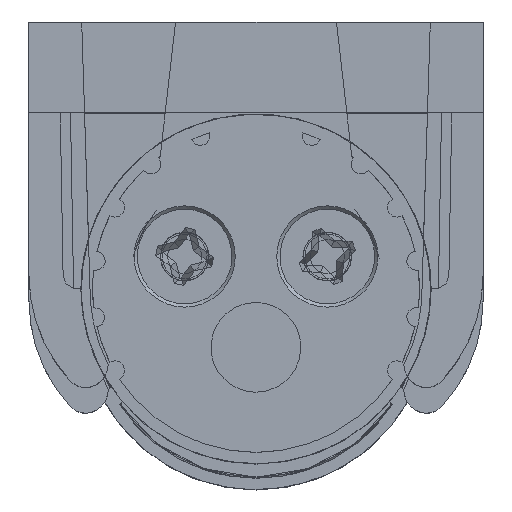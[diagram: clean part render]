
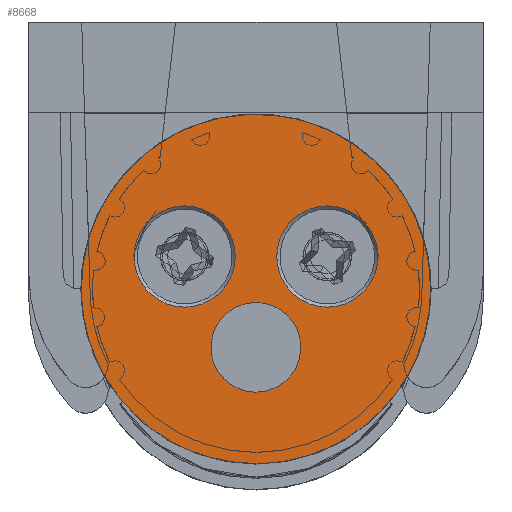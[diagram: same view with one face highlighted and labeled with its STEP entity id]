
A CAD part, top view. The second image highlights one B-rep face of the part: STEP entity #8668.
In plain terms, the highlighted planar face has unit normal (0, 0, 1).
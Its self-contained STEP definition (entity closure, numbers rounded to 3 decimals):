
#169=FACE_BOUND('',#1114,.T.);
#170=FACE_BOUND('',#1115,.T.);
#171=FACE_BOUND('',#1116,.T.);
#315=PLANE('',#9352);
#628=FACE_OUTER_BOUND('',#1113,.T.);
#1113=EDGE_LOOP('',(#6556,#6557,#6558));
#1114=EDGE_LOOP('',(#6559));
#1115=EDGE_LOOP('',(#6560));
#1116=EDGE_LOOP('',(#6561,#6562));
#1598=CIRCLE('',#9353,3.9);
#1599=CIRCLE('',#9354,3.9);
#3260=B_SPLINE_CURVE_WITH_KNOTS('',3,(#15860,#15861,#15862,#15863,#15864,
#15865,#15866,#15867,#15868,#15869,#15870,#15871,#15872,#15873,#15874,#15875,
#15876,#15877),.UNSPECIFIED.,.F.,.F.,(4,2,2,2,2,2,2,2,4),(0.,0.619,
1.376,2.208,2.895,3.582,4.413,
5.171,5.789),.UNSPECIFIED.);
#3261=B_SPLINE_CURVE_WITH_KNOTS('',3,(#15879,#15880,#15881,#15882,#15883,
#15884,#15885,#15886,#15887,#15888),.UNSPECIFIED.,.F.,.F.,(4,2,2,2,4),(0.,
0.568,1.154,1.74,2.308),
 .UNSPECIFIED.);
#3262=B_SPLINE_CURVE_WITH_KNOTS('',3,(#15889,#15890,#15891,#15892,#15893,
#15894,#15895,#15896,#15897,#15898),.UNSPECIFIED.,.F.,.F.,(4,2,2,2,4),(0.,
0.568,1.154,1.74,2.308),
 .UNSPECIFIED.);
#3263=B_SPLINE_CURVE_WITH_KNOTS('',3,(#15905,#15906,#15907,#15908,#15909,
#15910,#15911,#15912,#15913,#15914,#15915,#15916,#15917),.UNSPECIFIED.,
 .F.,.F.,(4,1,1,1,1,1,1,1,1,1,4),(0.,1.15,2.243,3.283,
4.429,5.522,6.615,7.76,8.8,
9.893,11.043),.UNSPECIFIED.);
#3264=B_SPLINE_CURVE_WITH_KNOTS('',3,(#15918,#15919,#15920,#15921,#15922,
#15923,#15924,#15925,#15926,#15927,#15928,#15929,#15930),.UNSPECIFIED.,
 .F.,.F.,(4,1,1,1,1,1,1,1,1,1,4),(11.043,12.194,13.287,
14.418,15.53,16.565,17.6,18.713,
19.844,20.937,22.087),.UNSPECIFIED.);
#3767=VERTEX_POINT('',#15858);
#3768=VERTEX_POINT('',#15859);
#3769=VERTEX_POINT('',#15878);
#3770=VERTEX_POINT('',#15899);
#3771=VERTEX_POINT('',#15901);
#3772=VERTEX_POINT('',#15903);
#3773=VERTEX_POINT('',#15904);
#4806=EDGE_CURVE('',#3767,#3768,#3260,.T.);
#4807=EDGE_CURVE('',#3769,#3767,#3261,.T.);
#4808=EDGE_CURVE('',#3768,#3769,#3262,.T.);
#4809=EDGE_CURVE('',#3770,#3770,#1598,.T.);
#4810=EDGE_CURVE('',#3771,#3771,#1599,.T.);
#4811=EDGE_CURVE('',#3772,#3773,#3263,.T.);
#4812=EDGE_CURVE('',#3773,#3772,#3264,.T.);
#6556=ORIENTED_EDGE('',*,*,#4806,.F.);
#6557=ORIENTED_EDGE('',*,*,#4807,.F.);
#6558=ORIENTED_EDGE('',*,*,#4808,.F.);
#6559=ORIENTED_EDGE('',*,*,#4809,.T.);
#6560=ORIENTED_EDGE('',*,*,#4810,.T.);
#6561=ORIENTED_EDGE('',*,*,#4811,.T.);
#6562=ORIENTED_EDGE('',*,*,#4812,.T.);
#8668=ADVANCED_FACE('',(#628,#169,#170,#171),#315,.T.);
#9352=AXIS2_PLACEMENT_3D('',#15857,#10928,#10929);
#9353=AXIS2_PLACEMENT_3D('',#15900,#10930,#10931);
#9354=AXIS2_PLACEMENT_3D('',#15902,#10932,#10933);
#10928=DIRECTION('center_axis',(0.,0.,
1.));
#10929=DIRECTION('ref_axis',(1.,0.,0.));
#10930=DIRECTION('center_axis',(0.,0.,
-1.));
#10931=DIRECTION('ref_axis',(1.,0.,0.));
#10932=DIRECTION('center_axis',(0.,0.,
-1.));
#10933=DIRECTION('ref_axis',(1.,0.,0.));
#15857=CARTESIAN_POINT('Origin',(-47.17,-13.305,576.533));
#15858=CARTESIAN_POINT('',(-45.776,1.545,576.533));
#15859=CARTESIAN_POINT('',(-18.864,1.545,576.533));
#15860=CARTESIAN_POINT('Ctrl Pts',(-45.776,1.545,576.533));
#15861=CARTESIAN_POINT('Ctrl Pts',(-45.776,3.608,576.533));
#15862=CARTESIAN_POINT('Ctrl Pts',(-45.302,5.355,576.533));
#15863=CARTESIAN_POINT('Ctrl Pts',(-44.099,8.282,576.533));
#15864=CARTESIAN_POINT('Ctrl Pts',(-43.131,9.745,576.533));
#15865=CARTESIAN_POINT('Ctrl Pts',(-40.561,12.353,576.533));
#15866=CARTESIAN_POINT('Ctrl Pts',(-39.036,13.325,576.533));
#15867=CARTESIAN_POINT('Ctrl Pts',(-36.217,14.499,576.533));
#15868=CARTESIAN_POINT('Ctrl Pts',(-34.458,15.001,576.533));
#15869=CARTESIAN_POINT('Ctrl Pts',(-30.181,15.001,576.533));
#15870=CARTESIAN_POINT('Ctrl Pts',(-28.422,14.499,576.533));
#15871=CARTESIAN_POINT('Ctrl Pts',(-25.604,13.325,576.533));
#15872=CARTESIAN_POINT('Ctrl Pts',(-24.078,12.353,576.533));
#15873=CARTESIAN_POINT('Ctrl Pts',(-21.509,9.745,576.533));
#15874=CARTESIAN_POINT('Ctrl Pts',(-20.541,8.282,576.533));
#15875=CARTESIAN_POINT('Ctrl Pts',(-19.337,5.355,576.533));
#15876=CARTESIAN_POINT('Ctrl Pts',(-18.864,3.608,576.533));
#15877=CARTESIAN_POINT('Ctrl Pts',(-18.864,1.545,576.533));
#15878=CARTESIAN_POINT('',(-32.32,-11.911,576.533));
#15879=CARTESIAN_POINT('Ctrl Pts',(-32.32,-11.911,
576.533));
#15880=CARTESIAN_POINT('Ctrl Pts',(-34.212,-11.911,
576.533));
#15881=CARTESIAN_POINT('Ctrl Pts',(-35.98,-11.512,
576.533));
#15882=CARTESIAN_POINT('Ctrl Pts',(-39.14,-10.184,
576.533));
#15883=CARTESIAN_POINT('Ctrl Pts',(-40.597,-9.206,
576.533));
#15884=CARTESIAN_POINT('Ctrl Pts',(-43.072,-6.732,
576.533));
#15885=CARTESIAN_POINT('Ctrl Pts',(-44.049,-5.275,576.533));
#15886=CARTESIAN_POINT('Ctrl Pts',(-45.378,-2.114,
576.533));
#15887=CARTESIAN_POINT('Ctrl Pts',(-45.776,-0.347,
576.533));
#15888=CARTESIAN_POINT('Ctrl Pts',(-45.776,1.545,576.533));
#15889=CARTESIAN_POINT('Ctrl Pts',(-18.864,1.545,576.533));
#15890=CARTESIAN_POINT('Ctrl Pts',(-18.864,-0.347,
576.533));
#15891=CARTESIAN_POINT('Ctrl Pts',(-19.262,-2.114,
576.533));
#15892=CARTESIAN_POINT('Ctrl Pts',(-20.59,-5.275,
576.533));
#15893=CARTESIAN_POINT('Ctrl Pts',(-21.568,-6.732,
576.533));
#15894=CARTESIAN_POINT('Ctrl Pts',(-24.042,-9.206,
576.533));
#15895=CARTESIAN_POINT('Ctrl Pts',(-25.499,-10.184,
576.533));
#15896=CARTESIAN_POINT('Ctrl Pts',(-28.66,-11.512,
576.533));
#15897=CARTESIAN_POINT('Ctrl Pts',(-30.427,-11.911,
576.533));
#15898=CARTESIAN_POINT('Ctrl Pts',(-32.32,-11.911,
576.533));
#15899=CARTESIAN_POINT('',(-30.72,4.045,576.533));
#15900=CARTESIAN_POINT('Origin',(-26.82,4.045,576.533));
#15901=CARTESIAN_POINT('',(-41.72,4.045,576.533));
#15902=CARTESIAN_POINT('Origin',(-37.82,4.045,576.533));
#15903=CARTESIAN_POINT('',(-32.324,0.509,576.533));
#15904=CARTESIAN_POINT('',(-32.324,-6.418,576.533));
#15905=CARTESIAN_POINT('Ctrl Pts',(-32.324,0.509,
576.533));
#15906=CARTESIAN_POINT('Ctrl Pts',(-31.947,0.509,
576.533));
#15907=CARTESIAN_POINT('Ctrl Pts',(-31.21,0.387,576.533));
#15908=CARTESIAN_POINT('Ctrl Pts',(-30.243,-0.119,
576.533));
#15909=CARTESIAN_POINT('Ctrl Pts',(-29.474,-0.89,
576.533));
#15910=CARTESIAN_POINT('Ctrl Pts',(-28.976,-1.861,
576.533));
#15911=CARTESIAN_POINT('Ctrl Pts',(-28.805,-2.955,
576.533));
#15912=CARTESIAN_POINT('Ctrl Pts',(-28.976,-4.049,576.533));
#15913=CARTESIAN_POINT('Ctrl Pts',(-29.474,-5.02,
576.533));
#15914=CARTESIAN_POINT('Ctrl Pts',(-30.243,-5.79,
576.533));
#15915=CARTESIAN_POINT('Ctrl Pts',(-31.21,-6.296,576.533));
#15916=CARTESIAN_POINT('Ctrl Pts',(-31.947,-6.418,
576.533));
#15917=CARTESIAN_POINT('Ctrl Pts',(-32.324,-6.418,
576.533));
#15918=CARTESIAN_POINT('Ctrl Pts',(-32.324,-6.418,
576.533));
#15919=CARTESIAN_POINT('Ctrl Pts',(-32.702,-6.418,576.533));
#15920=CARTESIAN_POINT('Ctrl Pts',(-33.439,-6.296,576.533));
#15921=CARTESIAN_POINT('Ctrl Pts',(-34.432,-5.776,
576.533));
#15922=CARTESIAN_POINT('Ctrl Pts',(-35.206,-4.98,
576.533));
#15923=CARTESIAN_POINT('Ctrl Pts',(-35.683,-4.,
576.533));
#15924=CARTESIAN_POINT('Ctrl Pts',(-35.838,-2.955,
576.533));
#15925=CARTESIAN_POINT('Ctrl Pts',(-35.683,-1.909,576.533));
#15926=CARTESIAN_POINT('Ctrl Pts',(-35.206,-0.929,
576.533));
#15927=CARTESIAN_POINT('Ctrl Pts',(-34.432,-0.133,
576.533));
#15928=CARTESIAN_POINT('Ctrl Pts',(-33.439,0.387,
576.533));
#15929=CARTESIAN_POINT('Ctrl Pts',(-32.702,0.509,
576.533));
#15930=CARTESIAN_POINT('Ctrl Pts',(-32.324,0.509,
576.533));
